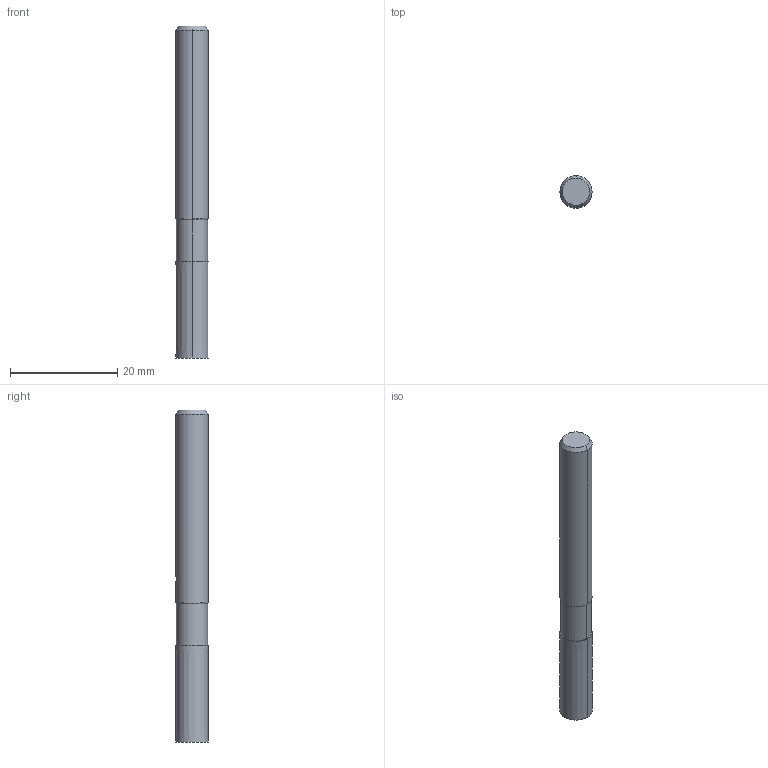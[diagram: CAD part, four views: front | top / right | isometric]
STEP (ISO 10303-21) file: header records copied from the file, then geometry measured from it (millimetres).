
FILE_DESCRIPTION(('no description'),'unknown implementation level');
FILE_NAME('solidAlVnHSkLotWOCfmc69T4VOHlVJM_1.STP',' ',('CIMSOURCE GmbH'),('CADClick - KiM GmbH - www.kimweb.de'),'unknown preprocess','ACIS','unknown authorization');
FILE_SCHEMA(('automotive_design'));
Length unit declared in the file: millimetre
Products named in the file (2): NOCUT; CUT
Bounding box: 6 x 6 x 62 mm (x, y, z)
Volume: 1734.8 mm3; surface area: 1611.5 mm2
Topology: 2 solids, 2 shells, 41 faces, 93 edges, 58 vertices
Faces by surface type: cylinder 16, cone 14, plane 11
Entity records: 2488 total; most frequent: CARTESIAN_POINT 414, DIRECTION 211, STYLED_ITEM 194, PRESENTATION_STYLE_ASSIGNMENT 194, COLOUR_RGB 194, ORIENTED_EDGE 186, EDGE_CURVE 93, CURVE_STYLE 93
